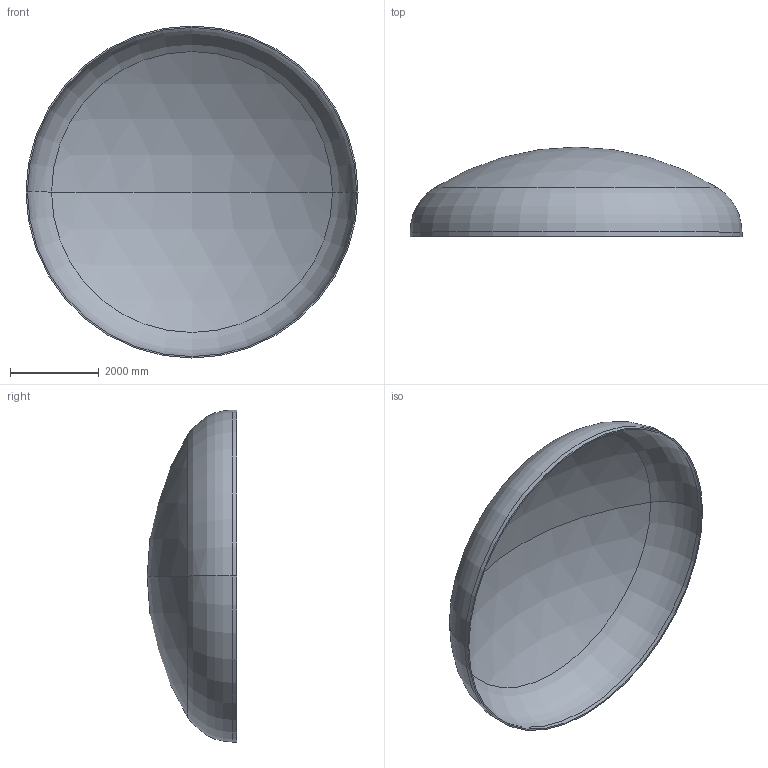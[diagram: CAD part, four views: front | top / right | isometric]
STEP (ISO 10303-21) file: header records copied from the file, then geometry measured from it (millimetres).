
FILE_DESCRIPTION (( 'STEP AP203' ), '1' );
FILE_NAME ('DIN 28013 Korbbogenform_-_Boden DIN 28013 - 7500 x 100 - I - s=32.step', '2016-07-04T10:53:04', ( '' ), ( '' ), 'SwSTEP 2.0', 'SolidWorks 2013', '' );
FILE_SCHEMA (( 'CONFIG_CONTROL_DESIGN' ));
Length unit declared in the file: millimetre
Products named in the file (1): DIN 28013 Korbbogenform_-_Boden DIN 28013 - 7500 x 100 - I - s=32
Bounding box: 7500 x 2020.42 x 7500 mm (x, y, z)
Volume: 2022131657.5 mm3; surface area: 127136088 mm2
Topology: 1 solids, 1 shells, 13 faces, 24 edges, 14 vertices
Faces by surface type: torus 4, cylinder 4, sphere 4, plane 1
Entity records: 407 total; most frequent: DIRECTION 72, CARTESIAN_POINT 52, ORIENTED_EDGE 48, AXIS2_PLACEMENT_3D 34, EDGE_CURVE 24, CIRCLE 20, VERTEX_POINT 14, EDGE_LOOP 14
